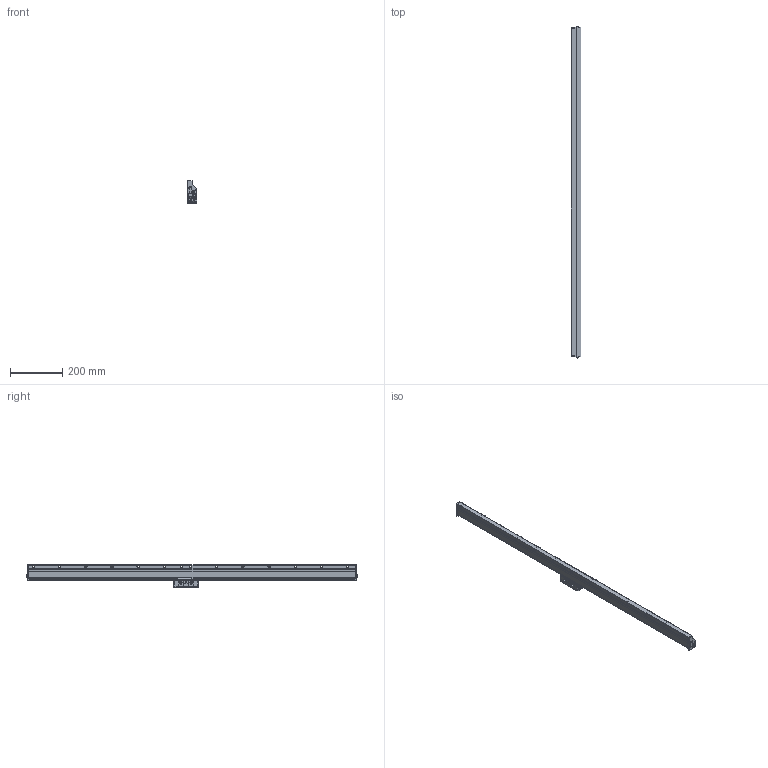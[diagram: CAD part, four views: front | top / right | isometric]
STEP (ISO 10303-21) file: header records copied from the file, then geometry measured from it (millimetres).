
FILE_DESCRIPTION(('Creo Elements/Direct Modeling STEP Export'),'2;1');
FILE_NAME('AT1153-1140.stp','2018-10-12T11:31:46',(''),(''),'Creo Elements/Direct Modeling STEP processor for AP214 (Solid Model)','Creo Elements/Direct Modeling 18.1B 29-Sep-2012 (C) Parametric Technology GmbH','');
FILE_SCHEMA(('AUTOMOTIVE_DESIGN { 1 0 10303 214 1 1 1 1 }'));
Products named in the file (3): Scale_1140; DetectorHead; AT1153-1140
Assembly tree (2 placements, depth 2):
  AT1153-1140
    DetectorHead
    Scale_1140
Bounding box: 37 x 1268.44 x 85 mm (x, y, z)
Volume: 75076.9 mm3; surface area: 291862.3 mm2
Topology: 1 solids, 2 shells, 2924 faces, 7794 edges, 5052 vertices
Faces by surface type: plane 1755, cylinder 951, cone 116, torus 69, bspline 13, sphere 12, extrusion 8
Entity records: 93530 total; most frequent: CARTESIAN_POINT 17415, ORIENTED_EDGE 15650, DIRECTION 14737, EDGE_CURVE 7780, VECTOR 5107, LINE 5099, VERTEX_POINT 5052, AXIS2_PLACEMENT_3D 4815
